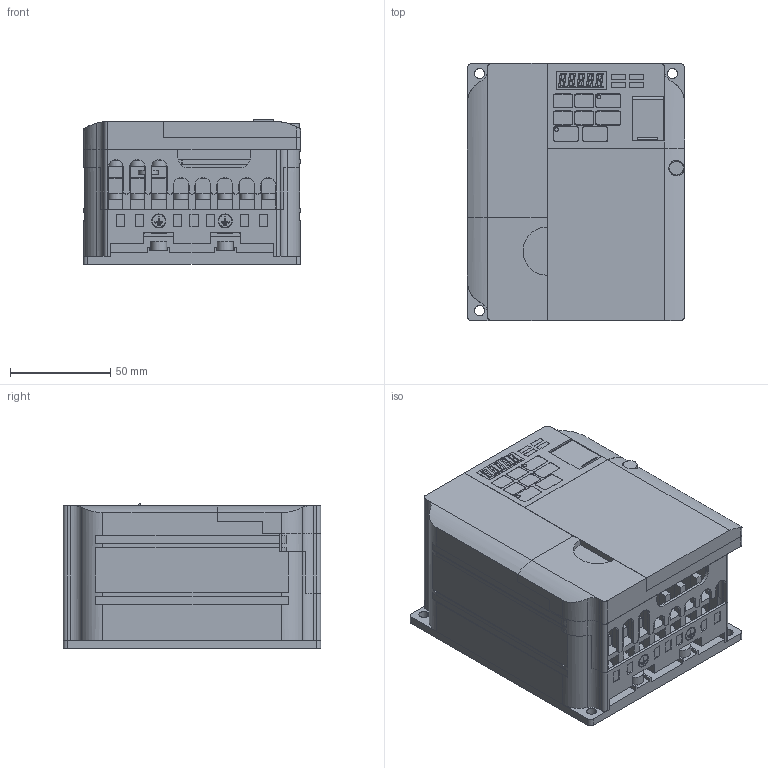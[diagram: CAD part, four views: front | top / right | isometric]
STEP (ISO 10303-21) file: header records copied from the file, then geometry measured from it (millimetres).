
FILE_DESCRIPTION((''),'2;1');
FILE_NAME('V1000_FINLESS_FRAME_C_ASM','2010-07-20T',('jc'),('YASKAWA ELECTRIC CORCORATION'),'PRO/ENGINEER BY PARAMETRIC TECHNOLOGY CORPORATION, 2008490','PRO/ENGINEER BY PARAMETRIC TECHNOLOGY CORPORATION, 2008490','');
FILE_SCHEMA(('CONFIG_CONTROL_DESIGN'));
Length unit declared in the file: millimetre
Products named in the file (23): NONE-81375; ASM0057_ASM; NONE-80528; TANSHI_COVER_B________ANY_ASM; NONE-70116; ASM0058_ASM; NONE-77961; ASM0059_ASM; NONE-78243; SHITA_COVER_B1________ANY_ASM; NONE-10492; BASE_CASE_B1________ANY_ASM; NONE-68501; BASE_MAIN_TERMINAL_B_2________A_ASM; NONE-10156; BASE_HEATSINK_B6________ANY_ASM; NONE-17605; ASM0060_ASM; NONE-1107; BASE_MAIN_TERMINAL_B_1________A_ASM; CIMR_VZ4A0002JAA_ANY_ASM; _2A0008J_2A0010J_4A0001J_4A0002; V1000_FINLESS_FRAME_C_ASM
Assembly tree (22 placements, depth 4):
  V1000_FINLESS_FRAME_C_ASM
    CIMR_VZ4A0002JAA_ANY_ASM
      ASM0057_ASM
        NONE-81375
      TANSHI_COVER_B________ANY_ASM
        NONE-80528
      ASM0058_ASM
        NONE-70116
      ASM0059_ASM
        NONE-77961
      SHITA_COVER_B1________ANY_ASM
        NONE-78243
      BASE_CASE_B1________ANY_ASM
        NONE-10492
      BASE_MAIN_TERMINAL_B_2________A_ASM
        NONE-68501
      BASE_HEATSINK_B6________ANY_ASM
        NONE-10156
      ASM0060_ASM
        NONE-17605
      BASE_MAIN_TERMINAL_B_1________A_ASM
        NONE-1107
    _2A0008J_2A0010J_4A0001J_4A0002
Bounding box: 108 x 128 x 72 mm (x, y, z)
Volume: 700005.7 mm3; surface area: 176098.9 mm2
Topology: 10 solids, 10 shells, 1752 faces, 4739 edges, 3138 vertices
Faces by surface type: plane 1415, cylinder 337
Entity records: 55231 total; most frequent: CARTESIAN_POINT 9779, ORIENTED_EDGE 9478, DIRECTION 9116, EDGE_CURVE 4739, VECTOR 3976, LINE 3976, VERTEX_POINT 3138, AXIS2_PLACEMENT_3D 2570
